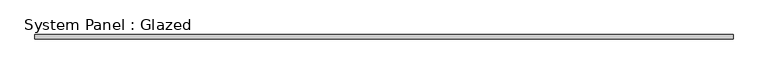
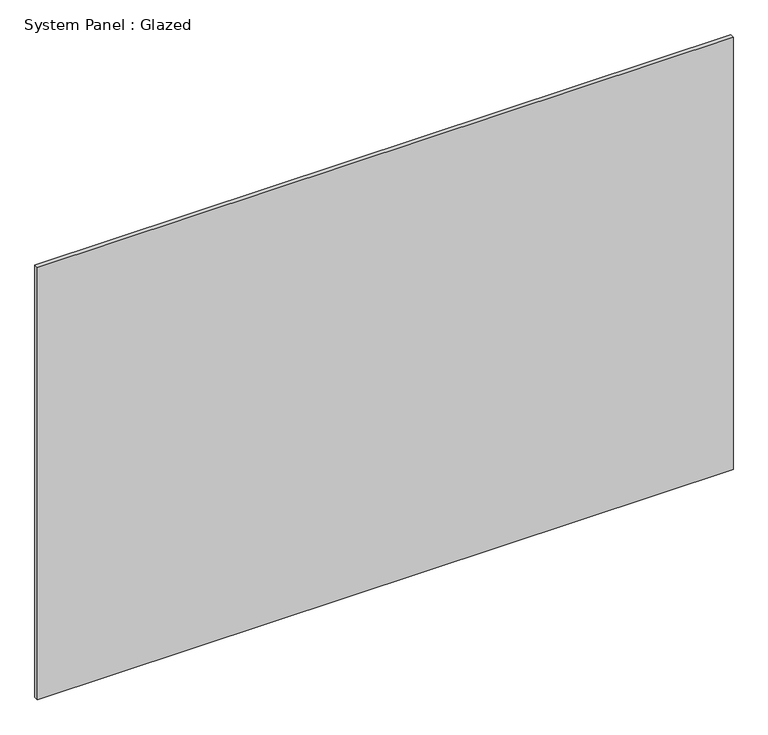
"""IFC4 building model written with IfcOpenShell, lengths in millimetres: plate geometry, System Panel : Glazed."""

from ifc_helpers import new_model, si_unit, origin, origin_with_axes, place, context, project, spatial, polyline, outline, extrude, source, transform, mapped, element, save


def system_panel_glazed_6d2359c6(model_context):
    return source(origin(), model_context, "Body", "SweptSolid", [
        extrude(outline(polyline([(2092.5, -49.5), (-2092.5, -49.5), (-2092.5, -24.5), (2092.5, -24.5), (2092.5, -49.5)])), origin_with_axes(), (0.0, 0.0, 1.0), 2750.0),
    ])


if __name__ == "__main__":
    model = new_model("IFC4")
    model_context = context("Model", 3, world=origin())
    ifc_project = project(units=[si_unit("LENGTHUNIT", "METRE", prefix="MILLI")], contexts=[model_context])
    site = spatial("IfcSite", under=ifc_project)
    building = spatial("IfcBuilding", under=site)
    placement = place(None, origin())
    system_panel_glazed_shape = system_panel_glazed_6d2359c6(model_context)
    element("IfcPlate", 1, ObjectType="System Panel : Glazed", at=placement, inside=building, context=model_context, shape_type="MappedRepresentation", body=[
        mapped(system_panel_glazed_shape, transform((0.0, 0.0, 0.0), x_axis=(1.0, 0.0, 0.0), y_axis=(0.0, 1.0, 0.0), z_axis=(0.0, 0.0, 1.0))),
    ])
    save(model, "model.ifc")
